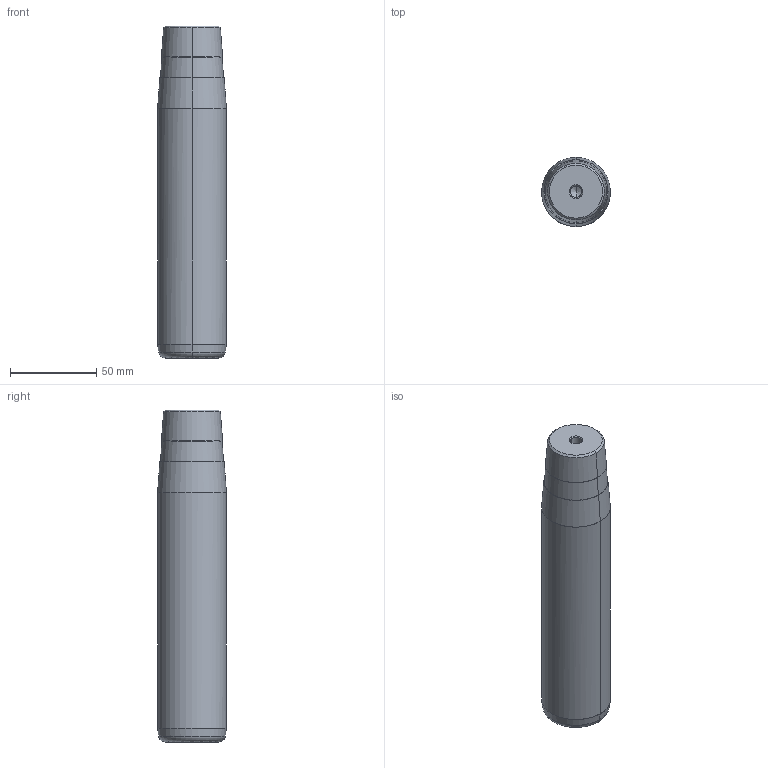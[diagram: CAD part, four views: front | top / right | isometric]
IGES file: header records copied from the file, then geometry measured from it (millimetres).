
Start section: START RECORD GO HERE.
Global section: file name: 722-40x160x193.igs; native system: DASSAULT SYSTEMES CATIA V5 R20 - www.3ds.com; preprocessor: CATIA Version 5 Release 20 ; author: Utente; organization: NB04-ASUS; date: 20210108.163642; units: millimetre
Bounding box: 40 x 40 x 193 mm (x, y, z)
Surface area: 26590 mm2 (no closed solid volume)
Topology: 0 solids, 0 shells, 32 faces, 192 edges, 188 vertices
Faces by surface type: revolution 30, plane 2
